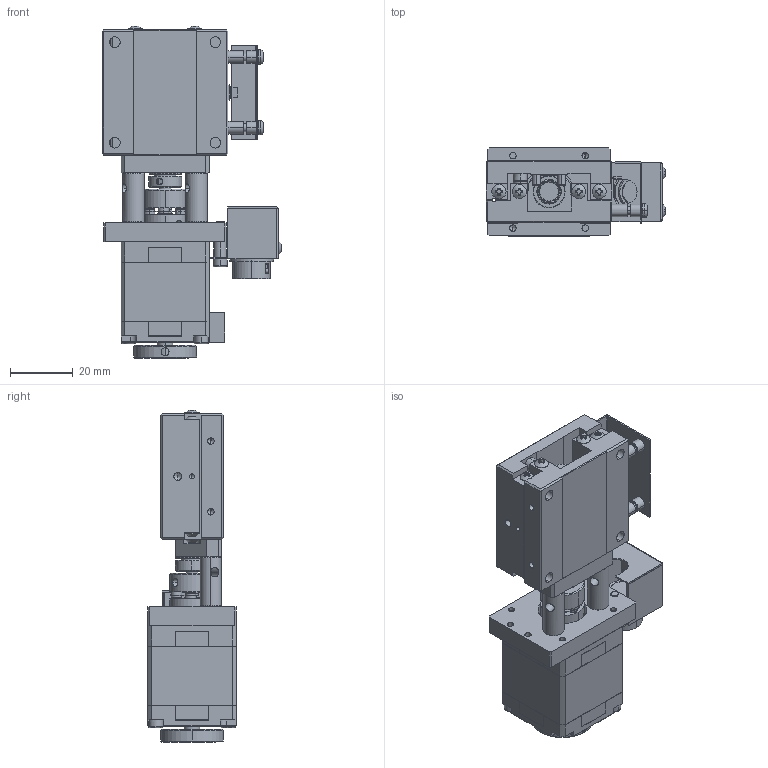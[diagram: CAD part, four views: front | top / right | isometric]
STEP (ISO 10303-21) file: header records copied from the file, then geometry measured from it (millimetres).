
FILE_DESCRIPTION (( 'STEP AP214' ), '1' );
FILE_NAME ('TXS4015E-L1-M28L.STEP', '2025-01-03T09:20:46', ( '' ), ( '' ), 'SwSTEP 2.0', 'SolidWorks 2020', '' );
FILE_SCHEMA (( 'AUTOMOTIVE_DESIGN' ));
Length unit declared in the file: millimetre
Products named in the file (1): TXS4015E-L1-M28L
Bounding box: 57.13 x 28 x 105.63 mm (x, y, z)
Volume: 61966 mm3; surface area: 38564.5 mm2
Topology: 85 solids, 85 shells, 1818 faces, 4698 edges, 3032 vertices
Faces by surface type: plane 894, cylinder 582, cone 178, bspline 84, sphere 56, torus 24
Entity records: 60536 total; most frequent: CARTESIAN_POINT 16675, ORIENTED_EDGE 8996, DIRECTION 8668, EDGE_CURVE 4498, AXIS2_PLACEMENT_3D 3147, VERTEX_POINT 2948, VECTOR 2374, LINE 2374
